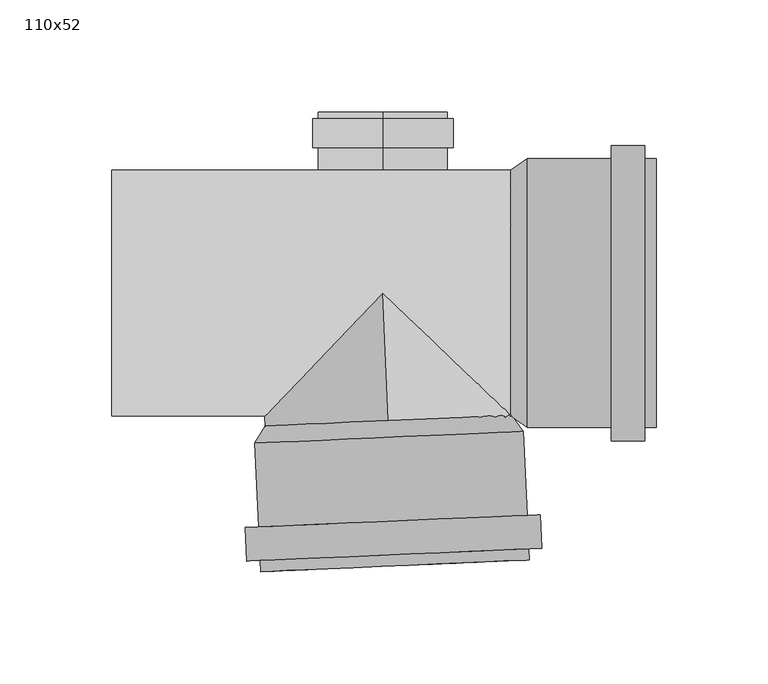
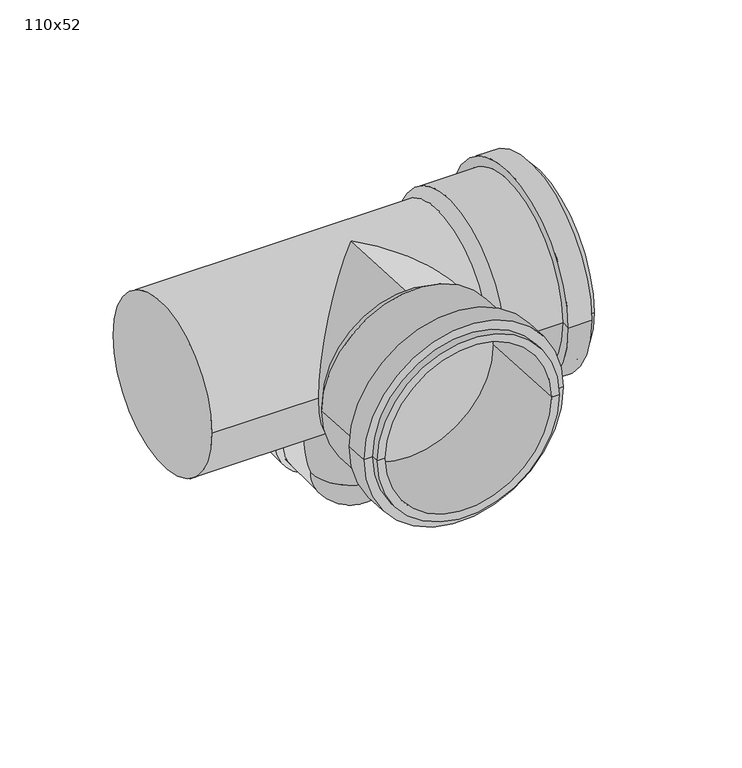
"""IFC4 building model written with IfcOpenShell, lengths in millimetres: pipe fitting geometry, AliaxisFR_Friaphon_RightMultipleBranch_FR : 110x52."""

from ifc_helpers import new_model, si_unit, point, frame, origin, place, context, project, spatial, polyline, circle_curve, ellipse_curve, trimmed, source, transform, mapped, element, save
from ifc_brep_helpers import plane_surface, cylinder_surface, revolved_surface, advanced_brep


def pipe_fitting_110x52_fa1e36f6(model_context):
    return source(origin(), model_context, "Body", "AdvancedBrep", [
        advanced_brep(
        [(0.0, 81.0, -122.0), (0.0, 81.0, -64.0), (0.0, 81.0, -67.0), (0.0, 81.0, -119.0), (0.0, 65.0, -124.5), (0.0, 65.0, -61.5), (0.0, 78.0, -61.5), (0.0, 78.0, -124.5), (0.0, 65.0, -122.0), (0.0, 65.0, -64.0), (0.0, 34.5, -122.0), (0.0, 34.5, -64.0), (0.0, 30.0, -67.0), (0.0, 30.0, -119.0), (0.0, 78.0, -122.0), (0.0, 78.0, -64.0)],
        [
            (0, 1, circle_curve(frame((0.0, 81.0, -93.0), z_axis=(0.0, 1.0, 0.0), x_axis=(0.0, 0.0, 1.0)), 29.0)),
            (1, 2),
            (2, 3, circle_curve(frame((0.0, 81.0, -93.0), z_axis=(0.0, -1.0, 0.0), x_axis=(0.0, 0.0, 1.0)), 26.0)),
            (3, 0),
            (1, 0, circle_curve(frame((0.0, 81.0, -93.0), z_axis=(0.0, 1.0, 0.0), x_axis=(0.0, 0.0, 1.0)), 29.0)),
            (3, 2, circle_curve(frame((0.0, 81.0, -93.0), z_axis=(0.0, -1.0, 0.0), x_axis=(0.0, 0.0, 1.0)), 26.0)),
            (4, 5, circle_curve(frame((0.0, 65.0, -93.0), z_axis=(0.0, 1.0, 0.0), x_axis=(0.0, 0.0, 1.0)), 31.5)),
            (5, 6),
            (6, 7, circle_curve(frame((0.0, 78.0, -93.0), z_axis=(0.0, -1.0, 0.0), x_axis=(0.0, 0.0, 1.0)), 31.5)),
            (7, 4),
            (5, 4, circle_curve(frame((0.0, 65.0, -93.0), z_axis=(0.0, 1.0, 0.0), x_axis=(0.0, 0.0, 1.0)), 31.5)),
            (7, 6, circle_curve(frame((0.0, 78.0, -93.0), z_axis=(0.0, -1.0, 0.0), x_axis=(0.0, 0.0, 1.0)), 31.5)),
            (8, 9, circle_curve(frame((0.0, 65.0, -93.0), z_axis=(0.0, 1.0, 0.0), x_axis=(0.0, 0.0, 1.0)), 29.0)),
            (9, 5),
            (4, 8),
            (9, 8, circle_curve(frame((0.0, 65.0, -93.0), z_axis=(0.0, 1.0, 0.0), x_axis=(0.0, 0.0, 1.0)), 29.0)),
            (10, 11, circle_curve(frame((0.0, 34.5, -93.0), z_axis=(0.0, 1.0, 0.0), x_axis=(0.0, 0.0, 1.0)), 29.0)),
            (11, 9),
            (8, 10),
            (11, 10, circle_curve(frame((0.0, 34.5, -93.0), z_axis=(0.0, 1.0, 0.0), x_axis=(0.0, 0.0, 1.0)), 29.0)),
            (2, 12),
            (12, 13, circle_curve(frame((0.0, 30.0, -93.0), z_axis=(0.0, -1.0, 0.0), x_axis=(0.0, 0.0, 1.0)), 26.0)),
            (13, 3),
            (13, 12, circle_curve(frame((0.0, 30.0, -93.0), z_axis=(0.0, -1.0, 0.0), x_axis=(0.0, 0.0, 1.0)), 26.0)),
            (12, 11),
            (10, 13),
            (14, 15, circle_curve(frame((0.0, 78.0, -93.0), z_axis=(0.0, 1.0, 0.0), x_axis=(0.0, 0.0, 1.0)), 29.0)),
            (15, 1),
            (0, 14),
            (15, 14, circle_curve(frame((0.0, 78.0, -93.0), z_axis=(0.0, 1.0, 0.0), x_axis=(0.0, 0.0, 1.0)), 29.0)),
            (6, 15),
            (14, 7),
        ],
        [
            plane_surface(frame((0.0, 81.0, -93.0), z_axis=(0.0, 1.0, 0.0), x_axis=(0.0, 0.0, 1.0))),
            cylinder_surface(frame((0.0, 30.0, -93.0), z_axis=(0.0, -1.0, 0.0), x_axis=(0.0, 0.0, 1.0)), 31.5),
            plane_surface(frame((0.0, 65.0, -93.0), z_axis=(0.0, -1.0, 0.0), x_axis=(0.0, 0.0, 1.0))),
            cylinder_surface(frame((0.0, 30.0, -93.0), z_axis=(0.0, -1.0, 0.0), x_axis=(0.0, 0.0, 1.0)), 29.0),
            revolved_surface(polyline([(0.0, 30.0, -67.0), (0.0, 81.0, -67.0)]), (0.0, 30.0, -93.0), (0.0, -1.0, 0.0)),
            revolved_surface(polyline([(0.0, 34.5, -64.0), (0.0, 30.0, -67.0)]), (0.0, 30.0, -93.0), (0.0, -1.0, 0.0)),
            plane_surface(frame((0.0, 78.0, -93.0), z_axis=(0.0, 1.0, 0.0), x_axis=(0.0, 0.0, 1.0))),
        ],
        [
            (0, [[1, 2, 3, 4]]),
            (0, [[5, -4, 6, -2]]),
            (1, [[7, 8, 9, 10]]),
            (1, [[11, -10, 12, -8]]),
            (2, [[13, 14, -7, 15]]),
            (2, [[16, -15, -11, -14]]),
            (3, [[17, 18, -13, 19]]),
            (3, [[20, -19, -16, -18]]),
            (4, [[-3, 21, 22, 23]]),
            (4, [[-6, -23, 24, -21]]),
            (5, [[-22, 25, -17, 26]]),
            (5, [[-24, -26, -20, -25]]),
            (3, [[27, 28, -1, 29]]),
            (3, [[30, -29, -5, -28]]),
            (6, [[-9, 31, -27, 32]]),
            (6, [[-12, -32, -30, -31]]),
        ],
    ),
        advanced_brep(
        [(0.0, 33.0, -119.0), (0.0, 33.0, -67.0), (0.0, 26.0, -67.0), (26.0, 0.0, -93.0), (0.0, 0.0, -119.0), (-26.0, 0.0, -93.0), (0.0, -26.0, -10.0), (0.0, 26.0, -10.0), (0.0, -26.0, -93.0)],
        [
            (0, 1, circle_curve(frame((0.0, 33.0, -93.0), z_axis=(0.0, 1.0, 0.0), x_axis=(0.0, 0.0, 1.0)), 26.0)),
            (1, 0, circle_curve(frame((0.0, 33.0, -93.0), z_axis=(0.0, 1.0, 0.0), x_axis=(0.0, 0.0, 1.0)), 26.0)),
            (1, 2),
            (2, 3, ellipse_curve(frame((0.0, 0.0, -93.0), z_axis=(0.0, 0.7071067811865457, -0.7071067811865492), x_axis=(0.0, -0.7071067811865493, -0.7071067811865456)), 36.7695526, 26.0)),
            (3, 4, circle_curve(frame((0.0, 0.0, -93.0), z_axis=(0.0, 1.0, 0.0), x_axis=(0.0, 0.0, 1.0)), 26.0)),
            (4, 0),
            (4, 5, circle_curve(frame((0.0, 0.0, -93.0), z_axis=(0.0, 1.0, 0.0), x_axis=(0.0, 0.0, 1.0)), 26.0)),
            (5, 2, ellipse_curve(frame((0.0, 0.0, -93.0), z_axis=(0.0, 0.7071067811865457, -0.7071067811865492), x_axis=(0.0, -0.7071067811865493, -0.7071067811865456)), 36.7695526, 26.0)),
            (6, 7, circle_curve(frame((0.0, 0.0, -10.0), z_axis=(0.0, 0.0, 1.0), x_axis=(0.0, 1.0, 0.0)), 26.0)),
            (7, 6, circle_curve(frame((0.0, 0.0, -10.0), z_axis=(0.0, 0.0, 1.0), x_axis=(0.0, 1.0, 0.0)), 26.0)),
            (6, 8),
            (8, 3, circle_curve(frame((0.0, 0.0, -93.0), z_axis=(0.0, 0.0, 1.0), x_axis=(0.0, 1.0, 0.0)), 26.0)),
            (2, 7),
            (5, 8, circle_curve(frame((0.0, 0.0, -93.0), z_axis=(0.0, 0.0, 1.0), x_axis=(0.0, 1.0, 0.0)), 26.0)),
        ],
        [
            plane_surface(frame((0.0, 33.0, -93.0), z_axis=(0.0, 1.0, 0.0), x_axis=(1.0, 0.0, 0.0))),
            cylinder_surface(frame((0.0, 0.0, -93.0), z_axis=(0.0, -1.0, 0.0), x_axis=(0.0, 0.0, 1.0)), 26.0),
            plane_surface(frame((0.0, 0.0, -10.0), z_axis=(0.0, 0.0, 1.0), x_axis=(1.0, 0.0, 0.0))),
            cylinder_surface(frame((0.0, 0.0, -10.0), z_axis=(0.0, 0.0, 1.0), x_axis=(0.0, 1.0, 0.0)), 26.0),
            revolved_surface(trimmed(ellipse_curve(frame((0.0, 0.0, -93.0), z_axis=(0.0, 1.0, 0.0), x_axis=(0.0, 0.0, 1.0)), 26.0, 26.0), [point((26.0, 0.0, -93.0))], [point((-26.0, 0.0, -93.0))], True, "CARTESIAN"), (26.0, 0.0, -93.0), (-1.0, 0.0, 0.0)),
        ],
        [
            (0, [[1, 2]]),
            (1, [[-2, 3, 4, 5, 6]]),
            (1, [[-1, -6, 7, 8, -3]]),
            (2, [[9, 10]]),
            (3, [[-9, 11, 12, -4, 13]]),
            (3, [[-10, -13, -8, 14, -11]]),
            (4, [[-12, -14, -7, -5]]),
        ],
    ),
        advanced_brep(
        [(-54.621328, -124.5010463, 0.0), (65.2644586, -119.2667198, 0.0), (60.2692174, -119.4848167, 0.0), (-49.6260869, -124.2829493, 0.0), (-61.4880051, -104.7817982, 0.0), (70.3863601, -99.024039, 0.0), (71.0406509, -114.0097624, 0.0), (-60.8337143, -119.7675215, 0.0), (-55.4937158, -104.5200818, 0.0), (64.3920708, -99.2857554, 0.0), (-57.1294428, -67.0557735, 0.0), (62.7563438, -61.8214471, 0.0), (57.4339573, -54.5466823, 0.0), (-52.4613471, -59.3448149, 0.0), (-54.839425, -119.5058052, 0.0), (65.0463616, -114.2714787, 0.0)],
        [
            (0, 1, circle_curve(frame((5.3215653, -121.883883, 0.0), z_axis=(0.04361938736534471, -0.9990482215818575, 0.0), x_axis=(0.9990482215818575, 0.04361938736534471, 0.0)), 60.0)),
            (1, 2),
            (2, 3, circle_curve(frame((5.3215653, -121.883883, 0.0), z_axis=(-0.04361938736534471, 0.9990482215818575, 0.0), x_axis=(0.9990482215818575, 0.04361938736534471, 0.0)), 55.0)),
            (3, 0),
            (1, 0, circle_curve(frame((5.3215653, -121.883883, 0.0), z_axis=(0.04361938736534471, -0.9990482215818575, 0.0), x_axis=(0.9990482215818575, 0.04361938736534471, 0.0)), 60.0)),
            (3, 2, circle_curve(frame((5.3215653, -121.883883, 0.0), z_axis=(-0.04361938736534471, 0.9990482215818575, 0.0), x_axis=(0.9990482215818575, 0.04361938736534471, 0.0)), 55.0)),
            (4, 5, circle_curve(frame((4.4491775, -101.9029186, 0.0), z_axis=(0.04361938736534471, -0.9990482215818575, 0.0), x_axis=(0.9990482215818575, 0.04361938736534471, 0.0)), 66.0)),
            (5, 6),
            (6, 7, circle_curve(frame((5.1034683, -116.8886419, 0.0), z_axis=(-0.04361938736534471, 0.9990482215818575, 0.0), x_axis=(0.9990482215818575, 0.04361938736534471, 0.0)), 66.0)),
            (7, 4),
            (5, 4, circle_curve(frame((4.4491775, -101.9029186, 0.0), z_axis=(0.04361938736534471, -0.9990482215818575, 0.0), x_axis=(0.9990482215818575, 0.04361938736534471, 0.0)), 66.0)),
            (7, 6, circle_curve(frame((5.1034683, -116.8886419, 0.0), z_axis=(-0.04361938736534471, 0.9990482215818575, 0.0), x_axis=(0.9990482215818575, 0.04361938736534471, 0.0)), 66.0)),
            (8, 9, circle_curve(frame((4.4491775, -101.9029186, 0.0), z_axis=(0.04361938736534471, -0.9990482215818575, 0.0), x_axis=(0.9990482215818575, 0.04361938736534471, 0.0)), 60.0)),
            (9, 5),
            (4, 8),
            (9, 8, circle_curve(frame((4.4491775, -101.9029186, 0.0), z_axis=(0.04361938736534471, -0.9990482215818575, 0.0), x_axis=(0.9990482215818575, 0.04361938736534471, 0.0)), 60.0)),
            (10, 11, circle_curve(frame((2.8134505, -64.4386103, 0.0), z_axis=(0.04361938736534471, -0.9990482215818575, 0.0), x_axis=(0.9990482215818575, 0.04361938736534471, 0.0)), 60.0)),
            (11, 9),
            (8, 10),
            (11, 10, circle_curve(frame((2.8134505, -64.4386103, 0.0), z_axis=(0.04361938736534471, -0.9990482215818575, 0.0), x_axis=(0.9990482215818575, 0.04361938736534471, 0.0)), 60.0)),
            (2, 12),
            (12, 13, circle_curve(frame((2.4863051, -56.9457486, 0.0), z_axis=(-0.04361938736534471, 0.9990482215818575, 0.0), x_axis=(0.9990482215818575, 0.04361938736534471, 0.0)), 55.0)),
            (13, 3),
            (13, 12, circle_curve(frame((2.4863051, -56.9457486, 0.0), z_axis=(-0.04361938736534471, 0.9990482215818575, 0.0), x_axis=(0.9990482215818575, 0.04361938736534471, 0.0)), 55.0)),
            (12, 11),
            (10, 13),
            (14, 15, circle_curve(frame((5.1034683, -116.8886419, 0.0), z_axis=(0.04361938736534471, -0.9990482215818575, 0.0), x_axis=(0.9990482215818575, 0.04361938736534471, 0.0)), 60.0)),
            (15, 1),
            (0, 14),
            (15, 14, circle_curve(frame((5.1034683, -116.8886419, 0.0), z_axis=(0.04361938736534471, -0.9990482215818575, 0.0), x_axis=(0.9990482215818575, 0.04361938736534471, 0.0)), 60.0)),
            (6, 15),
            (14, 7),
        ],
        [
            plane_surface(frame((5.3215653, -121.883883, 0.0), z_axis=(0.04361938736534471, -0.9990482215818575, 0.0), x_axis=(0.9990482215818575, 0.04361938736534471, 0.0))),
            cylinder_surface(frame((2.4863051, -56.9457486, 0.0), z_axis=(-0.04361938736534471, 0.9990482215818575, 0.0), x_axis=(0.9990482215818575, 0.04361938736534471, 0.0)), 66.0),
            plane_surface(frame((4.4491775, -101.9029186, 0.0), z_axis=(-0.04361938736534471, 0.9990482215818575, 0.0), x_axis=(0.9990482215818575, 0.04361938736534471, 0.0))),
            cylinder_surface(frame((2.4863051, -56.9457486, 0.0), z_axis=(-0.04361938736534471, 0.9990482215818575, 0.0), x_axis=(0.9990482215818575, 0.04361938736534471, 0.0)), 60.0),
            revolved_surface(polyline([(57.43395728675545, -54.54668228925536, 0.0), (60.269217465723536, -119.48481669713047, 0.0)]), (2.4863051, -56.9457486, 0.0), (-0.04361938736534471, 0.9990482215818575, 0.0)),
            revolved_surface(polyline([(62.7563438, -61.8214471, 0.0), (57.4339573, -54.5466823, 0.0)]), (2.4863051, -56.9457486, 0.0), (-0.04361938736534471, 0.9990482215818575, 0.0)),
            plane_surface(frame((5.1034683, -116.8886419, 0.0), z_axis=(0.04361938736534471, -0.9990482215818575, 0.0), x_axis=(0.9990482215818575, 0.04361938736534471, 0.0))),
        ],
        [
            (0, [[1, 2, 3, 4]]),
            (0, [[5, -4, 6, -2]]),
            (1, [[7, 8, 9, 10]]),
            (1, [[11, -10, 12, -8]]),
            (2, [[13, 14, -7, 15]]),
            (2, [[16, -15, -11, -14]]),
            (3, [[17, 18, -13, 19]]),
            (3, [[20, -19, -16, -18]]),
            (4, [[-3, 21, 22, 23]]),
            (4, [[-6, -23, 24, -21]]),
            (5, [[-22, 25, -17, 26]]),
            (5, [[-24, -26, -20, -25]]),
            (3, [[27, 28, -1, 29]]),
            (3, [[30, -29, -5, -28]]),
            (6, [[-9, 31, -27, 32]]),
            (6, [[-12, -32, -30, -31]]),
        ],
    ),
        advanced_brep(
        [(122.0, -60.0, 0.0), (122.0, 60.0, 0.0), (122.0, 55.0, 0.0), (122.0, -55.0, 0.0), (102.0, -66.0, 0.0), (102.0, 66.0, 0.0), (117.0, 66.0, 0.0), (117.0, -66.0, 0.0), (102.0, -60.0, 0.0), (102.0, 60.0, 0.0), (64.5, -60.0, 0.0), (64.5, 60.0, 0.0), (57.0, 55.0, 0.0), (57.0, -55.0, 0.0), (117.0, -60.0, 0.0), (117.0, 60.0, 0.0)],
        [
            (0, 1, circle_curve(frame((122.0, 0.0, 0.0), z_axis=(1.0, 0.0, 0.0), x_axis=(0.0, 1.0, 0.0)), 60.0)),
            (1, 2),
            (2, 3, circle_curve(frame((122.0, 0.0, 0.0), z_axis=(-1.0, 0.0, 0.0), x_axis=(0.0, 1.0, 0.0)), 55.0)),
            (3, 0),
            (1, 0, circle_curve(frame((122.0, 0.0, 0.0), z_axis=(1.0, 0.0, 0.0), x_axis=(0.0, 1.0, 0.0)), 60.0)),
            (3, 2, circle_curve(frame((122.0, 0.0, 0.0), z_axis=(-1.0, 0.0, 0.0), x_axis=(0.0, 1.0, 0.0)), 55.0)),
            (4, 5, circle_curve(frame((102.0, 0.0, 0.0), z_axis=(1.0, 0.0, 0.0), x_axis=(0.0, 1.0, 0.0)), 66.0)),
            (5, 6),
            (6, 7, circle_curve(frame((117.0, 0.0, 0.0), z_axis=(-1.0, 0.0, 0.0), x_axis=(0.0, 1.0, 0.0)), 66.0)),
            (7, 4),
            (5, 4, circle_curve(frame((102.0, 0.0, 0.0), z_axis=(1.0, 0.0, 0.0), x_axis=(0.0, 1.0, 0.0)), 66.0)),
            (7, 6, circle_curve(frame((117.0, 0.0, 0.0), z_axis=(-1.0, 0.0, 0.0), x_axis=(0.0, 1.0, 0.0)), 66.0)),
            (8, 9, circle_curve(frame((102.0, 0.0, 0.0), z_axis=(1.0, 0.0, 0.0), x_axis=(0.0, 1.0, 0.0)), 60.0)),
            (9, 5),
            (4, 8),
            (9, 8, circle_curve(frame((102.0, 0.0, 0.0), z_axis=(1.0, 0.0, 0.0), x_axis=(0.0, 1.0, 0.0)), 60.0)),
            (10, 11, circle_curve(frame((64.5, 0.0, 0.0), z_axis=(1.0, 0.0, 0.0), x_axis=(0.0, 1.0, 0.0)), 60.0)),
            (11, 9),
            (8, 10),
            (11, 10, circle_curve(frame((64.5, 0.0, 0.0), z_axis=(1.0, 0.0, 0.0), x_axis=(0.0, 1.0, 0.0)), 60.0)),
            (2, 12),
            (12, 13, circle_curve(frame((57.0, 0.0, 0.0), z_axis=(-1.0, 0.0, 0.0), x_axis=(0.0, 1.0, 0.0)), 55.0)),
            (13, 3),
            (13, 12, circle_curve(frame((57.0, 0.0, 0.0), z_axis=(-1.0, 0.0, 0.0), x_axis=(0.0, 1.0, 0.0)), 55.0)),
            (12, 11),
            (10, 13),
            (14, 15, circle_curve(frame((117.0, 0.0, 0.0), z_axis=(1.0, 0.0, 0.0), x_axis=(0.0, 1.0, 0.0)), 60.0)),
            (15, 1),
            (0, 14),
            (15, 14, circle_curve(frame((117.0, 0.0, 0.0), z_axis=(1.0, 0.0, 0.0), x_axis=(0.0, 1.0, 0.0)), 60.0)),
            (6, 15),
            (14, 7),
        ],
        [
            plane_surface(frame((122.0, 0.0, 0.0), z_axis=(1.0, 0.0, 0.0), x_axis=(0.0, 1.0, 0.0))),
            cylinder_surface(frame((57.0, 0.0, 0.0), z_axis=(-1.0, 0.0, 0.0), x_axis=(0.0, 1.0, 0.0)), 66.0),
            plane_surface(frame((102.0, 0.0, 0.0), z_axis=(-1.0, 0.0, 0.0), x_axis=(0.0, 1.0, 0.0))),
            cylinder_surface(frame((57.0, 0.0, 0.0), z_axis=(-1.0, 0.0, 0.0), x_axis=(0.0, 1.0, 0.0)), 60.0),
            revolved_surface(polyline([(57.0, 55.0, 0.0), (122.0, 55.0, 0.0)]), (57.0, 0.0, 0.0), (-1.0, 0.0, 0.0)),
            revolved_surface(polyline([(64.5, 60.0, 0.0), (57.0, 55.0, 0.0)]), (57.0, 0.0, 0.0), (-1.0, 0.0, 0.0)),
            plane_surface(frame((117.0, 0.0, 0.0), z_axis=(1.0, 0.0, 0.0), x_axis=(0.0, 1.0, 0.0))),
        ],
        [
            (0, [[1, 2, 3, 4]]),
            (0, [[5, -4, 6, -2]]),
            (1, [[7, 8, 9, 10]]),
            (1, [[11, -10, 12, -8]]),
            (2, [[13, 14, -7, 15]]),
            (2, [[16, -15, -11, -14]]),
            (3, [[17, 18, -13, 19]]),
            (3, [[20, -19, -16, -18]]),
            (4, [[-3, 21, 22, 23]]),
            (4, [[-6, -23, 24, -21]]),
            (5, [[-22, 25, -17, 26]]),
            (5, [[-24, -26, -20, -25]]),
            (3, [[27, 28, -1, 29]]),
            (3, [[30, -29, -5, -28]]),
            (6, [[-9, 31, -27, 32]]),
            (6, [[-12, -32, -30, -31]]),
        ],
    ),
        advanced_brep(
        [(62.0, -55.0, 0.0), (62.0, 55.0, 0.0), (-121.0, -55.0, 0.0), (-121.0, 55.0, 0.0), (57.4537495, -55.0, 0.0), (0.0, 0.0, -55.0), (-52.6510458, -55.0, 0.0), (0.0, 0.0, 55.0), (2.704402, -61.9409897, -55.0), (2.704402, -61.9409897, 55.0)],
        [
            (0, 1, circle_curve(frame((62.0, 0.0, 0.0), z_axis=(1.0, 0.0, 0.0), x_axis=(0.0, 1.0, 0.0)), 55.0)),
            (1, 0, circle_curve(frame((62.0, 0.0, 0.0), z_axis=(1.0, 0.0, 0.0), x_axis=(0.0, 1.0, 0.0)), 55.0)),
            (2, 3, circle_curve(frame((-121.0, 0.0, 0.0), z_axis=(-1.0, 0.0, 0.0), x_axis=(0.0, 1.0, 0.0)), 55.0)),
            (3, 2, circle_curve(frame((-121.0, 0.0, 0.0), z_axis=(-1.0, 0.0, 0.0), x_axis=(0.0, 1.0, 0.0)), 55.0)),
            (0, 4),
            (4, 5, ellipse_curve(frame((0.0, 0.0, 0.0), z_axis=(0.6915130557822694, 0.7223639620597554, 0.0), x_axis=(0.7223639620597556, -0.6915130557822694, 0.0)), 79.5357362, 55.0)),
            (5, 6, ellipse_curve(frame((0.0, 0.0, 0.0), z_axis=(-0.7223639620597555, 0.6915130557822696, 0.0), x_axis=(0.6915130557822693, 0.7223639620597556, 0.0)), 76.1389035, 55.0)),
            (6, 2),
            (3, 1),
            (6, 7, ellipse_curve(frame((0.0, 0.0, 0.0), z_axis=(-0.7223639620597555, 0.6915130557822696, 0.0), x_axis=(0.6915130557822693, 0.7223639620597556, 0.0)), 76.1389035, 55.0)),
            (7, 4, ellipse_curve(frame((0.0, 0.0, 0.0), z_axis=(0.6915130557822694, 0.7223639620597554, 0.0), x_axis=(0.7223639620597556, -0.6915130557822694, 0.0)), 79.5357362, 55.0)),
            (8, 9, circle_curve(frame((2.704402, -61.9409897, 0.0), z_axis=(0.043619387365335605, -0.9990482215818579, 0.0), x_axis=(0.0, 0.0, 1.0)), 55.0)),
            (9, 8, circle_curve(frame((2.704402, -61.9409897, 0.0), z_axis=(0.043619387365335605, -0.9990482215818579, 0.0), x_axis=(0.0, 0.0, 1.0)), 55.0)),
            (8, 5),
            (7, 9),
        ],
        [
            plane_surface(frame((62.0, 55.0, 0.0), z_axis=(1.0, 0.0, 0.0), x_axis=(0.0, 0.0, 1.0))),
            plane_surface(frame((-121.0, 55.0, 0.0), z_axis=(-1.0, 0.0, 0.0), x_axis=(0.0, 0.0, -1.0))),
            cylinder_surface(frame((-121.0, 0.0, 0.0), z_axis=(1.0, 0.0, 0.0), x_axis=(0.0, 1.0, 0.0)), 55.0),
            plane_surface(frame((2.704402, -61.9409897, 55.0), z_axis=(0.04361938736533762, -0.9990482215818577, 0.0), x_axis=(-0.9990482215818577, -0.04361938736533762, 0.0))),
            cylinder_surface(frame((2.704402, -61.9409897, 0.0), z_axis=(-0.043619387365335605, 0.9990482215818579, 0.0), x_axis=(0.0, 0.0, 1.0)), 55.0),
        ],
        [
            (0, [[1, 2]]),
            (1, [[3, 4]]),
            (2, [[-1, 5, 6, 7, 8, -4, 9]]),
            (2, [[-2, -9, -3, -8, 10, 11, -5]]),
            (3, [[12, 13]]),
            (4, [[-12, 14, -6, -11, 15]]),
            (4, [[-13, -15, -10, -7, -14]]),
        ],
    ),
    ])


if __name__ == "__main__":
    model = new_model("IFC4")
    model_context = context("Model", 3, world=origin())
    ifc_project = project(units=[si_unit("LENGTHUNIT", "METRE", prefix="MILLI")], contexts=[model_context])
    site = spatial("IfcSite", under=ifc_project)
    building = spatial("IfcBuilding", under=site)
    placement = place(None, origin())
    pipe_fitting_110x52_shape = pipe_fitting_110x52_fa1e36f6(model_context)
    element("IfcPipeFitting", 1, ObjectType="AliaxisFR_Friaphon_RightMultipleBranch_FR : 110x52", at=placement, inside=building, context=model_context, shape_type="MappedRepresentation", body=[
        mapped(pipe_fitting_110x52_shape, transform((0.0, 0.0, 0.0), x_axis=(1.0, 0.0, 0.0), y_axis=(0.0, 1.0, 0.0), z_axis=(0.0, 0.0, 1.0))),
    ])
    save(model, "model.ifc")
